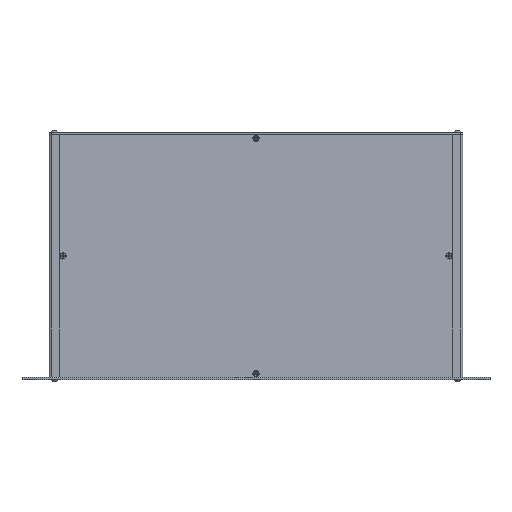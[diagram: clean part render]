
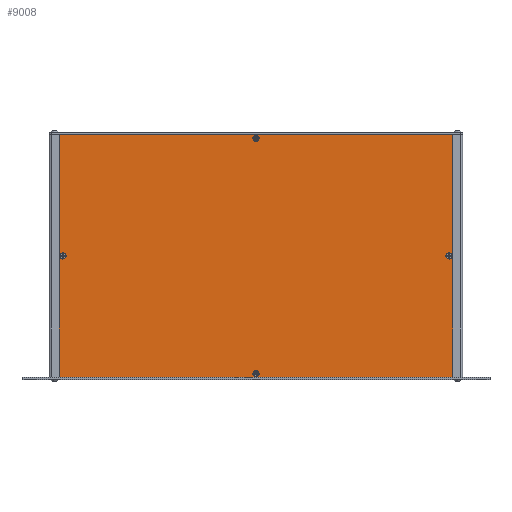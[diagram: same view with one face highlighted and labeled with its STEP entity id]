
A CAD part, top view. The second image highlights one B-rep face of the part: STEP entity #9008.
In plain terms, the highlighted planar face has unit normal (0, 0, 1).
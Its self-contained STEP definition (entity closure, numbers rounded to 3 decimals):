
#715=FACE_BOUND('',#1821,.T.);
#716=FACE_BOUND('',#1822,.T.);
#717=FACE_BOUND('',#1823,.T.);
#718=FACE_BOUND('',#1824,.T.);
#982=PLANE('',#9878);
#1272=FACE_OUTER_BOUND('',#1820,.T.);
#1820=EDGE_LOOP('',(#6815,#6816,#6817,#6818));
#1821=EDGE_LOOP('',(#6819));
#1822=EDGE_LOOP('',(#6820));
#1823=EDGE_LOOP('',(#6821));
#1824=EDGE_LOOP('',(#6822));
#2653=LINE('',#14186,#3353);
#2654=LINE('',#14188,#3354);
#2655=LINE('',#14190,#3355);
#2656=LINE('',#14191,#3356);
#3353=VECTOR('',#11343,10.);
#3354=VECTOR('',#11344,10.);
#3355=VECTOR('',#11345,10.);
#3356=VECTOR('',#11346,10.);
#3863=CIRCLE('',#9874,3.2);
#3866=CIRCLE('',#9879,3.2);
#3867=CIRCLE('',#9880,3.2);
#3868=CIRCLE('',#9881,3.2);
#4410=VERTEX_POINT('',#14174);
#4413=VERTEX_POINT('',#14184);
#4414=VERTEX_POINT('',#14185);
#4415=VERTEX_POINT('',#14187);
#4416=VERTEX_POINT('',#14189);
#4417=VERTEX_POINT('',#14192);
#4418=VERTEX_POINT('',#14194);
#4419=VERTEX_POINT('',#14196);
#5282=EDGE_CURVE('',#4410,#4410,#3863,.T.);
#5287=EDGE_CURVE('',#4413,#4414,#2653,.T.);
#5288=EDGE_CURVE('',#4414,#4415,#2654,.T.);
#5289=EDGE_CURVE('',#4416,#4415,#2655,.T.);
#5290=EDGE_CURVE('',#4413,#4416,#2656,.T.);
#5291=EDGE_CURVE('',#4417,#4417,#3866,.T.);
#5292=EDGE_CURVE('',#4418,#4418,#3867,.T.);
#5293=EDGE_CURVE('',#4419,#4419,#3868,.T.);
#6815=ORIENTED_EDGE('',*,*,#5287,.T.);
#6816=ORIENTED_EDGE('',*,*,#5288,.T.);
#6817=ORIENTED_EDGE('',*,*,#5289,.F.);
#6818=ORIENTED_EDGE('',*,*,#5290,.F.);
#6819=ORIENTED_EDGE('',*,*,#5291,.F.);
#6820=ORIENTED_EDGE('',*,*,#5292,.F.);
#6821=ORIENTED_EDGE('',*,*,#5293,.F.);
#6822=ORIENTED_EDGE('',*,*,#5282,.F.);
#9008=ADVANCED_FACE('',(#1272,#715,#716,#717,#718),#982,.T.);
#9874=AXIS2_PLACEMENT_3D('',#14175,#11331,#11332);
#9878=AXIS2_PLACEMENT_3D('',#14183,#11341,#11342);
#9879=AXIS2_PLACEMENT_3D('',#14193,#11347,#11348);
#9880=AXIS2_PLACEMENT_3D('',#14195,#11349,#11350);
#9881=AXIS2_PLACEMENT_3D('',#14197,#11351,#11352);
#11331=DIRECTION('center_axis',(0.,0.,1.));
#11332=DIRECTION('ref_axis',(-1.,0.,0.));
#11341=DIRECTION('center_axis',(0.,0.,1.));
#11342=DIRECTION('ref_axis',(1.,0.,0.));
#11343=DIRECTION('',(1.,0.,0.));
#11344=DIRECTION('',(0.,1.,0.));
#11345=DIRECTION('',(1.,0.,0.));
#11346=DIRECTION('',(0.,1.,0.));
#11347=DIRECTION('center_axis',(0.,0.,1.));
#11348=DIRECTION('ref_axis',(-1.,0.,0.));
#11349=DIRECTION('center_axis',(0.,0.,1.));
#11350=DIRECTION('ref_axis',(-1.,0.,0.));
#11351=DIRECTION('center_axis',(0.,0.,1.));
#11352=DIRECTION('ref_axis',(-1.,0.,0.));
#14174=CARTESIAN_POINT('',(45.5,125.,-42.05));
#14175=CARTESIAN_POINT('Origin',(42.3,125.,-42.05));
#14183=CARTESIAN_POINT('Origin',(38.4,0.,-42.05));
#14184=CARTESIAN_POINT('',(38.4,0.,-42.05));
#14185=CARTESIAN_POINT('',(444.6,0.,-42.05));
#14186=CARTESIAN_POINT('',(38.4,0.,-42.05));
#14187=CARTESIAN_POINT('',(444.6,250.,-42.05));
#14188=CARTESIAN_POINT('',(444.6,0.,-42.05));
#14189=CARTESIAN_POINT('',(38.4,250.,-42.05));
#14190=CARTESIAN_POINT('',(38.4,250.,-42.05));
#14191=CARTESIAN_POINT('',(38.4,0.,-42.05));
#14192=CARTESIAN_POINT('',(443.9,125.,-42.05));
#14193=CARTESIAN_POINT('Origin',(440.7,125.,-42.05));
#14194=CARTESIAN_POINT('',(244.7,246.5,-42.05));
#14195=CARTESIAN_POINT('Origin',(241.5,246.5,-42.05));
#14196=CARTESIAN_POINT('',(244.7,3.5,-42.05));
#14197=CARTESIAN_POINT('Origin',(241.5,3.5,-42.05));
